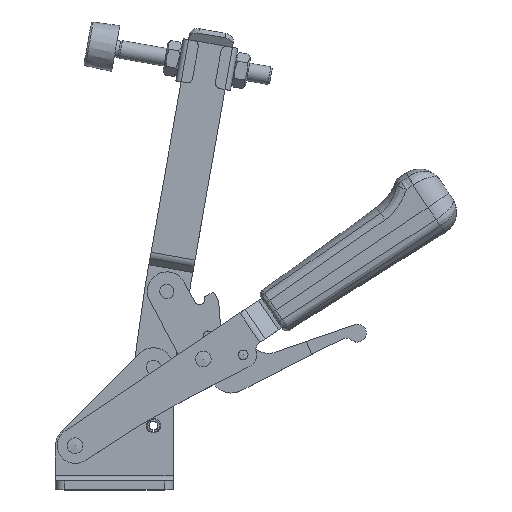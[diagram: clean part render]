
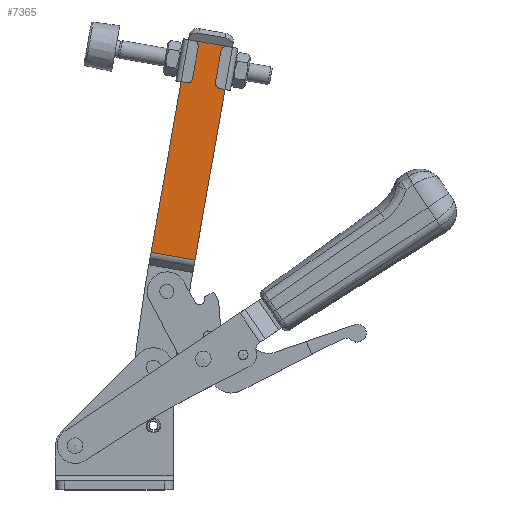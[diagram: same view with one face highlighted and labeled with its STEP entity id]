
A CAD part, top view. The second image highlights one B-rep face of the part: STEP entity #7365.
In plain terms, the highlighted planar face has unit normal (0, 0, 1).
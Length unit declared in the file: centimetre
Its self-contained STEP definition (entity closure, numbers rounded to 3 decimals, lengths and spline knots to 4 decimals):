
#1155=FACE_OUTER_BOUND($,#1648,.T.);
#1648=EDGE_LOOP($,(#5495,#5496,#5497,#5498));
#2311=LINE($,#11585,#2821);
#2312=LINE($,#11588,#2822);
#2319=LINE($,#11610,#2829);
#2320=LINE($,#11611,#2830);
#2821=VECTOR($,#9329,1.);
#2822=VECTOR($,#9332,1.);
#2829=VECTOR($,#9349,1.);
#2830=VECTOR($,#9350,1.);
#3356=VERTEX_POINT($,#11566);
#3361=VERTEX_POINT($,#11577);
#3362=VERTEX_POINT($,#11587);
#3372=VERTEX_POINT($,#11609);
#4170=EDGE_CURVE($,#3356,#3361,#2311,.T.);
#4171=EDGE_CURVE($,#3362,#3361,#2312,.T.);
#4182=EDGE_CURVE($,#3356,#3372,#2319,.T.);
#4183=EDGE_CURVE($,#3372,#3362,#2320,.T.);
#5495=ORIENTED_EDGE($,*,*,#4170,.F.);
#5496=ORIENTED_EDGE($,*,*,#4182,.T.);
#5497=ORIENTED_EDGE($,*,*,#4183,.T.);
#5498=ORIENTED_EDGE($,*,*,#4171,.T.);
#7081=PLANE($,#8044);
#7365=ADVANCED_FACE($,(#1155),#7081,.T.);
#8044=AXIS2_PLACEMENT_3D($,#11608,#9347,#9348);
#9329=DIRECTION($,(0.985,-0.174,0.));
#9332=DIRECTION($,(0.174,0.985,0.));
#9347=DIRECTION('center_axis',(0.,0.,
1.));
#9348=DIRECTION('ref_axis',(-0.174,-0.985,0.));
#9349=DIRECTION($,(-0.174,-0.985,0.));
#9350=DIRECTION($,(0.985,-0.174,0.));
#11566=CARTESIAN_POINT('',(1.9726,18.387,1.));
#11577=CARTESIAN_POINT('',(4.4347,17.9529,1.));
#11585=CARTESIAN_POINT($,(3.8192,18.0614,1.));
#11587=CARTESIAN_POINT('',(2.3301,6.0168,1.));
#11588=CARTESIAN_POINT($,(4.4572,18.0807,1.));
#11608=CARTESIAN_POINT('Origin',(3.0854,17.4992,1.));
#11609=CARTESIAN_POINT('',(-0.1319,6.4509,1.));
#11610=CARTESIAN_POINT($,(1.6479,16.5452,1.));
#11611=CARTESIAN_POINT($,(-0.1319,6.4509,1.));
